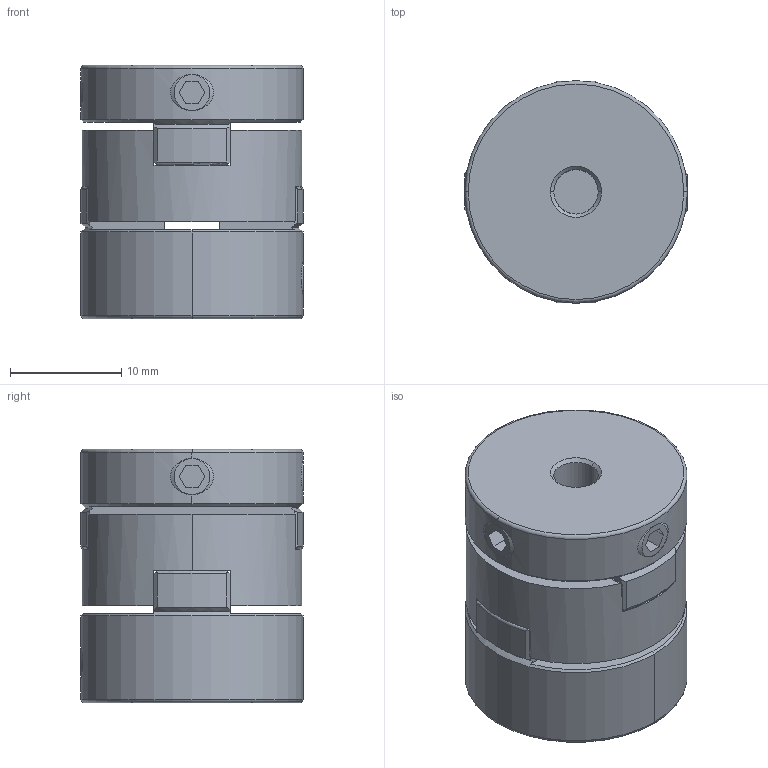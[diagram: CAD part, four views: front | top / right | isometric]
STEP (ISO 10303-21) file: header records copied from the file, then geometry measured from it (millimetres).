
FILE_DESCRIPTION (( 'STEP AP203' ), '1' );
FILE_NAME ('SOH-20S-4X8_203.STEP', '2013-01-20T05:52:54', ( '' ), ( '' ), 'SwSTEP 2.0', 'SolidWorks 2012', '' );
FILE_SCHEMA (( 'CONFIG_CONTROL_DESIGN' ));
Length unit declared in the file: millimetre
Products named in the file (1): SOH-20S-4X8_203
Bounding box: 20 x 20 x 22.8 mm (x, y, z)
Volume: 5816.7 mm3; surface area: 3601.8 mm2
Topology: 1 solids, 1 shells, 161 faces, 461 edges, 295 vertices
Faces by surface type: plane 74, cylinder 49, cone 20, torus 10, sphere 8
Entity records: 5837 total; most frequent: CARTESIAN_POINT 1599, ORIENTED_EDGE 922, DIRECTION 821, EDGE_CURVE 461, VERTEX_POINT 295, AXIS2_PLACEMENT_3D 293, LINE 235, VECTOR 235
